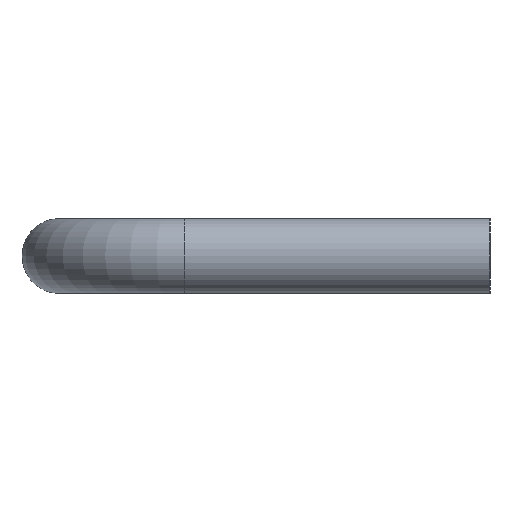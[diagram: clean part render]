
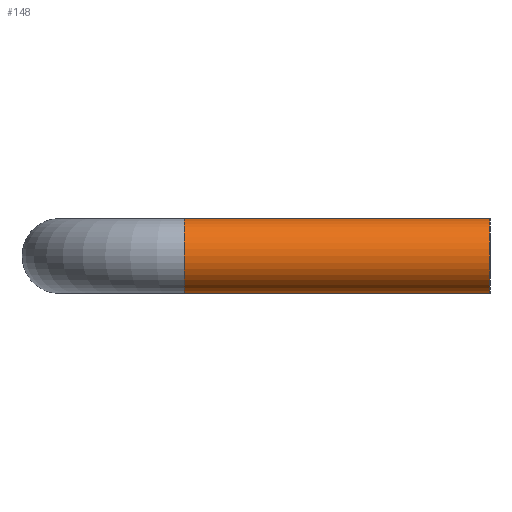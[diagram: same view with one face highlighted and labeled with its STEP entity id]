
A CAD part, left-side view. The second image highlights one B-rep face of the part: STEP entity #148.
In plain terms, the highlighted cylindrical face has radius 6 mm (diameter 12 mm), a full revolution.
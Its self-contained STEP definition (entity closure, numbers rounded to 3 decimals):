
#28=CYLINDRICAL_SURFACE('',#176,6.);
#35=ORIENTED_EDGE('',*,*,#59,.F.);
#36=ORIENTED_EDGE('',*,*,#57,.T.);
#57=EDGE_CURVE('',#69,#69,#83,.T.);
#59=EDGE_CURVE('',#71,#71,#85,.T.);
#69=VERTEX_POINT('',#253);
#71=VERTEX_POINT('',#258);
#83=CIRCLE('',#174,6.);
#85=CIRCLE('',#177,6.);
#97=EDGE_LOOP('',(#35));
#98=EDGE_LOOP('',(#36));
#121=FACE_BOUND('',#97,.T.);
#122=FACE_BOUND('',#98,.T.);
#148=ADVANCED_FACE('',(#121,#122),#28,.T.);
#174=AXIS2_PLACEMENT_3D('',#252,#202,#203);
#176=AXIS2_PLACEMENT_3D('',#256,#206,#207);
#177=AXIS2_PLACEMENT_3D('',#257,#208,#209);
#202=DIRECTION('',(0.,1.,0.));
#203=DIRECTION('',(0.,0.,1.));
#206=DIRECTION('',(0.,1.,0.));
#207=DIRECTION('',(0.,0.,1.));
#208=DIRECTION('',(0.,1.,0.));
#209=DIRECTION('',(0.,0.,1.));
#252=CARTESIAN_POINT('',(-100.,0.,0.));
#253=CARTESIAN_POINT('',(-100.,0.,6.));
#256=CARTESIAN_POINT('',(-100.,49.,0.));
#257=CARTESIAN_POINT('',(-100.,49.,0.));
#258=CARTESIAN_POINT('',(-100.,49.,6.));
